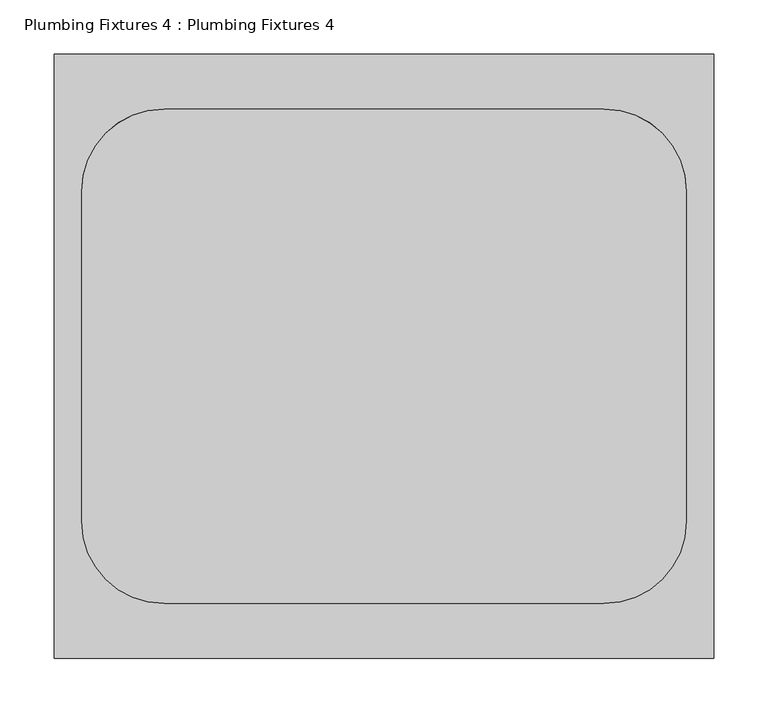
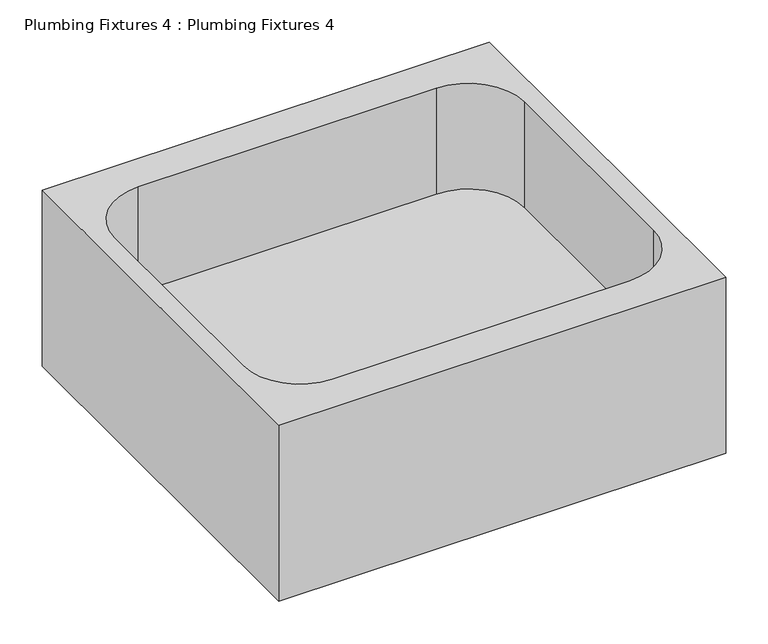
"""IFC4 building model written with IfcOpenShell, lengths in millimetres: flow terminal geometry, Plumbing Fixtures 4 : Plumbing Fixtures 4."""

from ifc_helpers import new_model, si_unit, frame, origin, place, context, project, spatial, polyline, circle_curve, source, transform, mapped, element, save
from ifc_brep_helpers import plane_surface, revolved_surface, advanced_brep


def plumbing_fixtures_4_plumbing_fixtures_4_be4fb774(model_context):
    return source(origin(), model_context, "Body", "AdvancedBrep", [
        advanced_brep(
        [(5016.5, 14382.6447939, 3873.5), (5016.5, 13823.8447939, 3873.5), (4406.9, 13823.8447939, 3873.5), (4406.9, 14382.6447939, 3873.5), (5016.5, 14382.6447939, 4127.5), (4406.9, 14382.6447939, 4127.5), (4406.9, 13823.8447939, 4127.5), (5016.5, 13823.8447939, 4127.5), (4508.5, 14331.8447939, 4127.5), (4914.9, 14331.8447939, 4127.5), (4991.1, 14255.6447939, 4127.5), (4991.1, 13950.8447939, 4127.5), (4914.9, 13874.6447939, 4127.5), (4508.5, 13874.6447939, 4127.5), (4432.3, 13950.8447939, 4127.5), (4432.3, 14255.6447939, 4127.5), (4508.5, 14331.8447939, 3975.1), (4432.3, 14255.6447939, 3975.1), (4432.3, 13950.8447939, 3975.1), (4508.5, 13874.6447939, 3975.1), (4914.9, 13874.6447939, 3975.1), (4991.1, 13950.8447939, 3975.1), (4991.1, 14255.6447939, 3975.1), (4914.9, 14331.8447939, 3975.1)],
        [
            (0, 1),
            (1, 2),
            (2, 3),
            (3, 0),
            (4, 5),
            (5, 6),
            (6, 7),
            (7, 4),
            (8, 9),
            (9, 10, circle_curve(frame((4914.9, 14255.6447939, 4127.5), z_axis=(0.0, 0.0, -1.0), x_axis=(-1.0, 0.0, 0.0)), 76.2)),
            (10, 11),
            (11, 12, circle_curve(frame((4914.9, 13950.8447939, 4127.5), z_axis=(0.0, 0.0, -1.0), x_axis=(-1.0, 0.0, 0.0)), 76.2)),
            (12, 13),
            (13, 14, circle_curve(frame((4508.5, 13950.8447939, 4127.5), z_axis=(0.0, 0.0, -1.0), x_axis=(-1.0, 0.0, 0.0)), 76.2)),
            (14, 15),
            (15, 8, circle_curve(frame((4508.5, 14255.6447939, 4127.5), z_axis=(0.0, 0.0, -1.0), x_axis=(-1.0, 0.0, 0.0)), 76.2)),
            (3, 5),
            (4, 0),
            (2, 6),
            (1, 7),
            (16, 17, circle_curve(frame((4508.5, 14255.6447939, 3975.1), z_axis=(0.0, 0.0, 1.0), x_axis=(-1.0, 0.0, 0.0)), 76.2)),
            (17, 18),
            (18, 19, circle_curve(frame((4508.5, 13950.8447939, 3975.1), z_axis=(0.0, 0.0, 1.0), x_axis=(-1.0, 0.0, 0.0)), 76.2)),
            (19, 20),
            (20, 21, circle_curve(frame((4914.9, 13950.8447939, 3975.1), z_axis=(0.0, 0.0, 1.0), x_axis=(-1.0, 0.0, 0.0)), 76.2)),
            (21, 22),
            (22, 23, circle_curve(frame((4914.9, 14255.6447939, 3975.1), z_axis=(0.0, 0.0, 1.0), x_axis=(-1.0, 0.0, 0.0)), 76.2)),
            (23, 16),
            (23, 9),
            (8, 16),
            (22, 10),
            (21, 11),
            (20, 12),
            (19, 13),
            (18, 14),
            (17, 15),
        ],
        [
            plane_surface(frame((4406.9, 14382.6447939, 3873.5), z_axis=(0.0, 0.0, -1.0), x_axis=(1.0, 0.0, 0.0))),
            plane_surface(frame((4406.9, 14382.6447939, 4127.5), z_axis=(0.0, 0.0, 1.0), x_axis=(-1.0, 0.0, 0.0))),
            plane_surface(frame((5016.5, 14382.6447939, 4127.5), z_axis=(0.0, 1.0, 0.0), x_axis=(0.0, 0.0, -1.0))),
            plane_surface(frame((4406.9, 14382.6447939, 4127.5), z_axis=(-1.0, 0.0, 0.0), x_axis=(0.0, 0.0, -1.0))),
            plane_surface(frame((4406.9, 13823.8447939, 4127.5), z_axis=(0.0, -1.0, 0.0), x_axis=(0.0, 0.0, -1.0))),
            plane_surface(frame((5016.5, 13823.8447939, 4127.5), z_axis=(1.0, 0.0, 0.0), x_axis=(0.0, 0.0, -1.0))),
            plane_surface(frame((4914.9, 14331.8447939, 3975.1), z_axis=(0.0, 0.0, 1.0), x_axis=(1.0, 0.0, 0.0))),
            plane_surface(frame((4508.5, 14331.8447939, 3975.1), z_axis=(0.0, -1.0, 0.0), x_axis=(0.0, 0.0, 1.0))),
            revolved_surface(polyline([(4838.7, 14255.6447939, 3975.1), (4838.7, 14255.6447939, 4127.5)]), (4914.9, 14255.6447939, 4127.5), (0.0, 0.0, -1.0)),
            plane_surface(frame((4991.1, 14255.6447939, 3975.1), z_axis=(-1.0, 0.0, 0.0), x_axis=(0.0, 0.0, 1.0))),
            revolved_surface(polyline([(4838.7, 13950.8447939, 3975.1), (4838.7, 13950.8447939, 4127.5)]), (4914.9, 13950.8447939, 4127.5), (0.0, 0.0, -1.0)),
            plane_surface(frame((4914.9, 13874.6447939, 3975.1), z_axis=(0.0, 1.0, 0.0), x_axis=(0.0, 0.0, 1.0))),
            revolved_surface(polyline([(4432.3, 13950.8447939, 3975.1), (4432.3, 13950.8447939, 4127.5)]), (4508.5, 13950.8447939, 4127.5), (0.0, 0.0, -1.0)),
            plane_surface(frame((4432.3, 13950.8447939, 3975.1), z_axis=(1.0, 0.0, 0.0), x_axis=(0.0, 0.0, 1.0))),
            revolved_surface(polyline([(4432.3, 14255.6447939, 3975.1), (4432.3, 14255.6447939, 4127.5)]), (4508.5, 14255.6447939, 4127.5), (0.0, 0.0, -1.0)),
        ],
        [
            (0, [[1, 2, 3, 4]]),
            (1, [[5, 6, 7, 8], [9, 10, 11, 12, 13, 14, 15, 16]]),
            (2, [[-4, 17, -5, 18]]),
            (3, [[-3, 19, -6, -17]]),
            (4, [[-2, 20, -7, -19]]),
            (5, [[-1, -18, -8, -20]]),
            (6, [[21, 22, 23, 24, 25, 26, 27, 28]]),
            (7, [[-28, 29, -9, 30]]),
            (8, [[-27, 31, -10, -29]]),
            (9, [[-26, 32, -11, -31]]),
            (10, [[-25, 33, -12, -32]]),
            (11, [[-24, 34, -13, -33]]),
            (12, [[-23, 35, -14, -34]]),
            (13, [[-22, 36, -15, -35]]),
            (14, [[-21, -30, -16, -36]]),
        ],
    ),
    ])


if __name__ == "__main__":
    model = new_model("IFC4")
    model_context = context("Model", 3, world=origin())
    ifc_project = project(units=[si_unit("LENGTHUNIT", "METRE", prefix="MILLI")], contexts=[model_context])
    site = spatial("IfcSite", under=ifc_project)
    building = spatial("IfcBuilding", under=site)
    placement = place(None, origin())
    plumbing_fixtures_4_plumbing_fixtures_4_shape = plumbing_fixtures_4_plumbing_fixtures_4_be4fb774(model_context)
    element("IfcFlowTerminal", 1, ObjectType="Plumbing Fixtures 4 : Plumbing Fixtures 4", at=placement, inside=building, context=model_context, shape_type="MappedRepresentation", body=[
        mapped(plumbing_fixtures_4_plumbing_fixtures_4_shape, transform((0.0, 0.0, 0.0), x_axis=(1.0, 0.0, 0.0), y_axis=(0.0, 1.0, 0.0), z_axis=(0.0, 0.0, 1.0))),
    ])
    save(model, "model.ifc")
